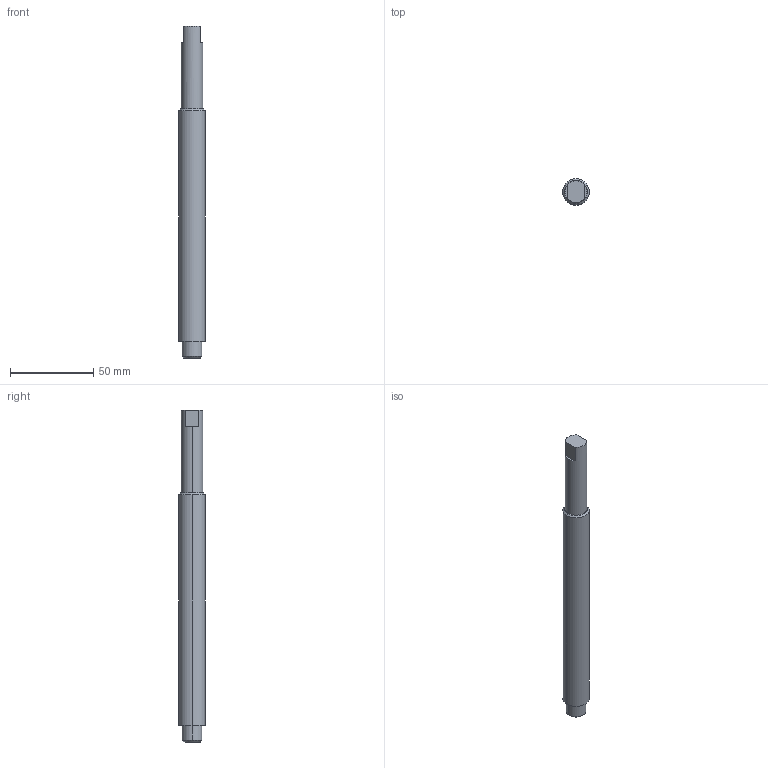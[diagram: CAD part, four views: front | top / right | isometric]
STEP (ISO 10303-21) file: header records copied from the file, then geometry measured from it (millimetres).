
FILE_DESCRIPTION(('CATIA V5 STEP Exchange'),'2;1');
FILE_NAME('D:\孙国\气囊类\2.0小气囊\STP\扣合工装\GZ04-TJG 调节螺杆.stp','2025-04-17T06:19:45+00:00',('none'),('none'),'CATIA Version 5 Release 20 GA (IN-10)','CATIA V5 STEP AP214','none');
FILE_SCHEMA(('AUTOMOTIVE_DESIGN { 1 0 10303 214 1 1 1 1 }'));
Length unit declared in the file: millimetre
Products named in the file (1): 调节螺杆
Bounding box: 16 x 16 x 200 mm (x, y, z)
Volume: 35215.4 mm3; surface area: 10076.7 mm2
Topology: 1 solids, 1 shells, 23 faces, 48 edges, 30 vertices
Faces by surface type: plane 9, cylinder 8, cone 6
Entity records: 591 total; most frequent: CARTESIAN_POINT 97, ORIENTED_EDGE 96, DIRECTION 84, EDGE_CURVE 48, AXIS2_PLACEMENT_3D 45, VERTEX_POINT 30, CIRCLE 26, EDGE_LOOP 26
